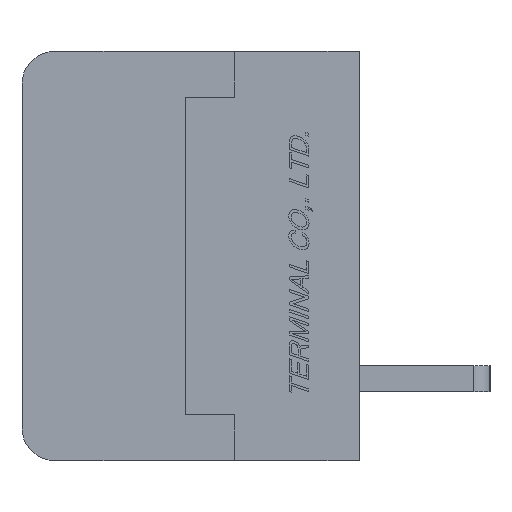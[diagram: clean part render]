
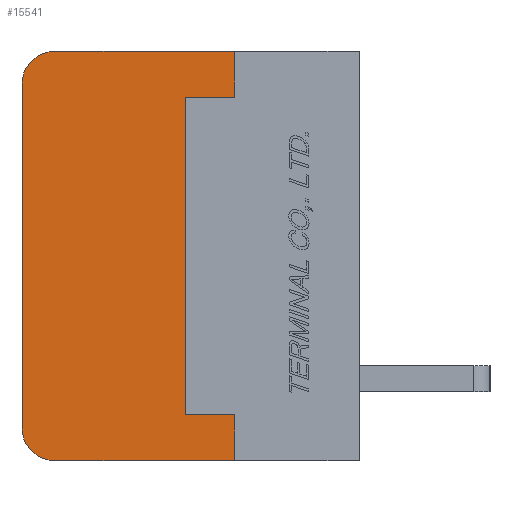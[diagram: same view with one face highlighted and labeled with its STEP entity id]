
A CAD part, left-side view. The second image highlights one B-rep face of the part: STEP entity #15541.
In plain terms, the highlighted planar face has unit normal (-1, 0, 0).
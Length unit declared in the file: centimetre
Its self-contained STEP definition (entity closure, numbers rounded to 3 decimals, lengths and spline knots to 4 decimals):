
#869=CIRCLE('',#26381,0.1);
#871=CIRCLE('',#26384,0.1);
#2089=VERTEX_POINT('',#23996);
#2090=VERTEX_POINT('',#23998);
#2092=VERTEX_POINT('',#24004);
#2094=VERTEX_POINT('',#24010);
#2095=VERTEX_POINT('',#24017);
#2096=VERTEX_POINT('',#24018);
#2097=VERTEX_POINT('',#24021);
#2098=VERTEX_POINT('',#24023);
#2099=VERTEX_POINT('',#24025);
#2100=VERTEX_POINT('',#24027);
#3741=VECTOR('',#18880,1.);
#3747=VECTOR('',#18900,1.);
#3748=VECTOR('',#18901,1.);
#3749=VECTOR('',#18902,1.);
#3750=VECTOR('',#18903,1.);
#3751=VECTOR('',#18904,1.);
#3752=VECTOR('',#18905,1.);
#3753=VECTOR('',#18906,1.);
#5461=LINE('',#23997,#3741);
#5467=LINE('',#24016,#3747);
#5468=LINE('',#24019,#3748);
#5469=LINE('',#24020,#3749);
#5470=LINE('',#24022,#3750);
#5471=LINE('',#24024,#3751);
#5472=LINE('',#24026,#3752);
#5473=LINE('',#24028,#3753);
#7710=EDGE_CURVE('',#2089,#2090,#5461,.T.);
#7714=EDGE_CURVE('',#2092,#2089,#869,.T.);
#7716=EDGE_CURVE('',#2090,#2094,#871,.T.);
#7720=EDGE_CURVE('',#2095,#2096,#5467,.T.);
#7721=EDGE_CURVE('',#2094,#2095,#5468,.T.);
#7722=EDGE_CURVE('',#2097,#2092,#5469,.T.);
#7723=EDGE_CURVE('',#2098,#2097,#5470,.T.);
#7724=EDGE_CURVE('',#2099,#2098,#5471,.T.);
#7725=EDGE_CURVE('',#2100,#2099,#5472,.T.);
#7726=EDGE_CURVE('',#2096,#2100,#5473,.T.);
#11850=ORIENTED_EDGE('',*,*,#7720,.F.);
#11851=ORIENTED_EDGE('',*,*,#7721,.F.);
#11852=ORIENTED_EDGE('',*,*,#7716,.F.);
#11853=ORIENTED_EDGE('',*,*,#7710,.F.);
#11854=ORIENTED_EDGE('',*,*,#7714,.F.);
#11855=ORIENTED_EDGE('',*,*,#7722,.F.);
#11856=ORIENTED_EDGE('',*,*,#7723,.F.);
#11857=ORIENTED_EDGE('',*,*,#7724,.F.);
#11858=ORIENTED_EDGE('',*,*,#7725,.F.);
#11859=ORIENTED_EDGE('',*,*,#7726,.F.);
#13684=EDGE_LOOP('',(#11850,#11851,#11852,#11853,#11854,#11855,#11856,#11857,
#11858,#11859));
#14640=FACE_BOUND('',#13684,.T.);
#15541=ADVANCED_FACE('',(#14640),#16204,.F.);
#16204=PLANE('',#26386);
#18880=DIRECTION('',(0.,0.,1.));
#18887=DIRECTION('',(1.,0.,0.));
#18888=DIRECTION('',(0.,0.,-0.1));
#18893=DIRECTION('',(1.,0.,0.));
#18894=DIRECTION('',(0.,0.,-0.1));
#18899=DIRECTION('',(1.,0.,0.));
#18900=DIRECTION('',(0.,0.,-1.));
#18901=DIRECTION('',(0.,-1.,0.));
#18902=DIRECTION('',(0.,1.,0.));
#18903=DIRECTION('',(0.,0.,-1.));
#18904=DIRECTION('',(0.,-1.,0.));
#18905=DIRECTION('',(0.,0.,-1.));
#18906=DIRECTION('',(0.,1.,0.));
#23996=CARTESIAN_POINT('',(-0.762,1.03,-0.525));
#23997=CARTESIAN_POINT('',(-0.762,1.03,-0.525));
#23998=CARTESIAN_POINT('',(-0.762,1.03,0.525));
#24004=CARTESIAN_POINT('',(-0.762,0.93,-0.625));
#24005=CARTESIAN_POINT('',(-0.762,0.93,-0.525));
#24009=CARTESIAN_POINT('',(-0.762,0.93,0.525));
#24010=CARTESIAN_POINT('',(-0.762,0.93,0.625));
#24015=CARTESIAN_POINT('',(-0.762,0.5047,0.));
#24016=CARTESIAN_POINT('',(-0.762,0.38,0.625));
#24017=CARTESIAN_POINT('',(-0.762,0.38,0.625));
#24018=CARTESIAN_POINT('',(-0.762,0.38,0.485));
#24019=CARTESIAN_POINT('',(-0.762,0.93,0.625));
#24020=CARTESIAN_POINT('',(-0.762,0.,-0.625));
#24021=CARTESIAN_POINT('',(-0.762,0.38,-0.625));
#24022=CARTESIAN_POINT('',(-0.762,0.38,-0.485));
#24023=CARTESIAN_POINT('',(-0.762,0.38,-0.485));
#24024=CARTESIAN_POINT('',(-0.762,0.53,-0.485));
#24025=CARTESIAN_POINT('',(-0.762,0.53,-0.485));
#24026=CARTESIAN_POINT('',(-0.762,0.53,0.485));
#24027=CARTESIAN_POINT('',(-0.762,0.53,0.485));
#24028=CARTESIAN_POINT('',(-0.762,0.38,0.485));
#26381=AXIS2_PLACEMENT_3D('',#24005,#18887,#18888);
#26384=AXIS2_PLACEMENT_3D('',#24009,#18893,#18894);
#26386=AXIS2_PLACEMENT_3D('',#24015,#18899,$);
